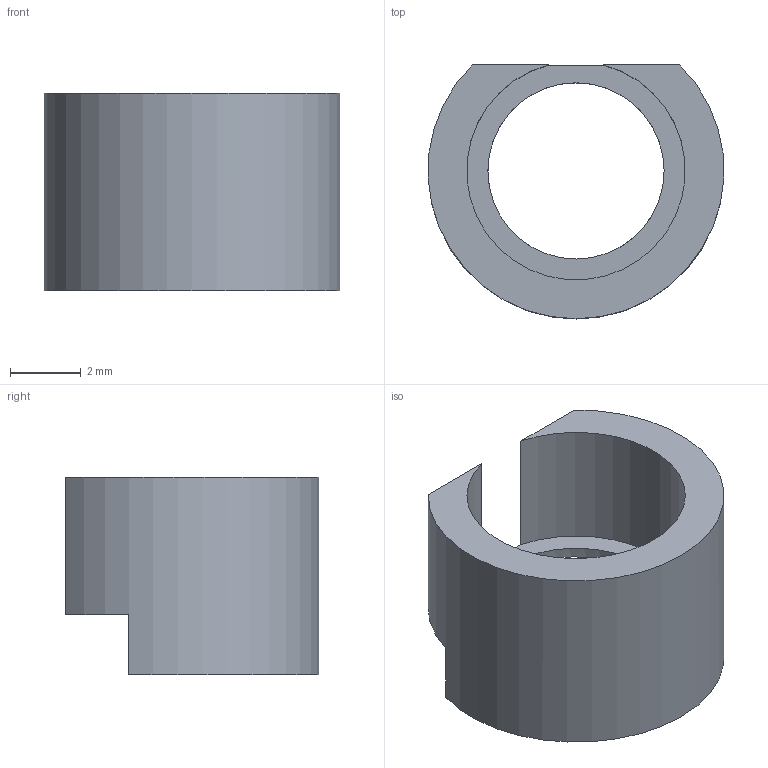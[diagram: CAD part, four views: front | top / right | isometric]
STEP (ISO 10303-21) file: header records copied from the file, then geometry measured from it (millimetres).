
FILE_DESCRIPTION(('Open CASCADE Model'),'2;1');
FILE_NAME('Open CASCADE Shape Model','2026-09-06T11:46:32',('Author'),( 'Open CASCADE'),'Open CASCADE STEP processor 7.7','Open CASCADE 7.7' ,'Unknown');
FILE_SCHEMA(('AUTOMOTIVE_DESIGN { 1 0 10303 214 1 1 1 1 }'));
Length unit declared in the file: millimetre
Products named in the file (1): Open CASCADE STEP translator 7.7 27
Bounding box: 8.39 x 7.2 x 5.6 mm (x, y, z)
Volume: 112.4 mm3; surface area: 276.9 mm2
Topology: 1 solids, 1 shells, 12 faces, 33 edges, 22 vertices
Faces by surface type: plane 8, cylinder 4
Full cylindrical faces by diameter (mm): 5 x1
Entity records: 833 total; most frequent: CARTESIAN_POINT 214, DIRECTION 102, ORIENTED_EDGE 66, PCURVE 66, DEFINITIONAL_REPRESENTATION 66, LINE 49, VECTOR 49, EDGE_CURVE 33
